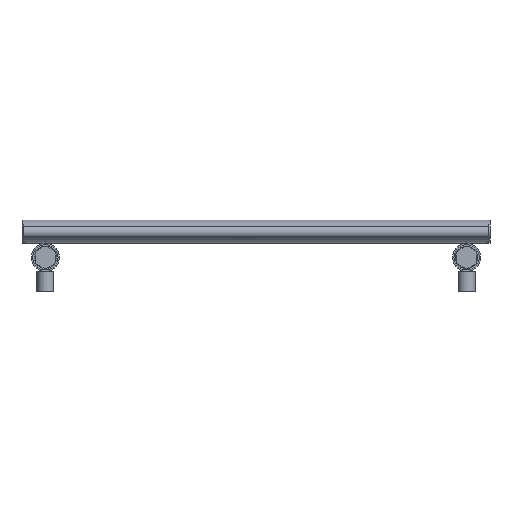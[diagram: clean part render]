
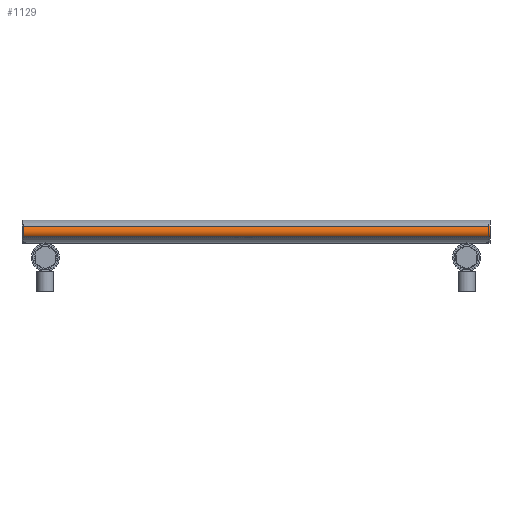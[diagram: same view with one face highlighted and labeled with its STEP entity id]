
A CAD part, front view. The second image highlights one B-rep face of the part: STEP entity #1129.
In plain terms, the highlighted cylindrical face has radius 7.112 mm (diameter 14.225 mm), a partial arc.
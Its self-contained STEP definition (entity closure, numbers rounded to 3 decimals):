
#132=LINE('',#3014,#164);
#134=LINE('',#3028,#166);
#164=VECTOR('',#1405,10.);
#166=VECTOR('',#1423,10.);
#247=CIRCLE('',#1243,7.112);
#250=CIRCLE('',#1249,7.112);
#373=FACE_OUTER_BOUND('',#486,.T.);
#486=EDGE_LOOP('',(#946,#947,#948,#949));
#642=VERTEX_POINT('',#3011);
#643=VERTEX_POINT('',#3013);
#645=VERTEX_POINT('',#3019);
#647=VERTEX_POINT('',#3027);
#749=EDGE_CURVE('',#643,#642,#132,.T.);
#753=EDGE_CURVE('',#645,#642,#247,.T.);
#756=EDGE_CURVE('',#647,#645,#134,.T.);
#758=EDGE_CURVE('',#643,#647,#250,.T.);
#946=ORIENTED_EDGE('',*,*,#749,.T.);
#947=ORIENTED_EDGE('',*,*,#753,.F.);
#948=ORIENTED_EDGE('',*,*,#756,.F.);
#949=ORIENTED_EDGE('',*,*,#758,.F.);
#1093=CYLINDRICAL_SURFACE('',#1248,7.112);
#1129=ADVANCED_FACE('',(#373),#1093,.T.);
#1243=AXIS2_PLACEMENT_3D('',#3021,#1414,#1415);
#1248=AXIS2_PLACEMENT_3D('',#3030,#1426,#1427);
#1249=AXIS2_PLACEMENT_3D('',#3031,#1428,#1429);
#1405=DIRECTION('',(0.,0.,1.));
#1414=DIRECTION('center_axis',(0.,0.,1.));
#1415=DIRECTION('ref_axis',(-0.552,0.834,0.));
#1423=DIRECTION('',(0.,0.,1.));
#1426=DIRECTION('center_axis',(0.,0.,1.));
#1427=DIRECTION('ref_axis',(-0.552,0.834,0.));
#1428=DIRECTION('center_axis',(0.,0.,-1.));
#1429=DIRECTION('ref_axis',(-0.552,0.834,0.));
#3011=CARTESIAN_POINT('',(-21.816,-18.429,250.));
#3013=CARTESIAN_POINT('',(-21.816,-18.429,-250.));
#3014=CARTESIAN_POINT('',(-21.816,-18.429,0.));
#3019=CARTESIAN_POINT('',(-21.816,-6.571,250.));
#3021=CARTESIAN_POINT('Origin',(-17.888,-12.5,250.));
#3027=CARTESIAN_POINT('',(-21.816,-6.571,-250.));
#3028=CARTESIAN_POINT('',(-21.816,-6.571,0.));
#3030=CARTESIAN_POINT('Origin',(-17.888,-12.5,0.));
#3031=CARTESIAN_POINT('Origin',(-17.888,-12.5,-250.));
